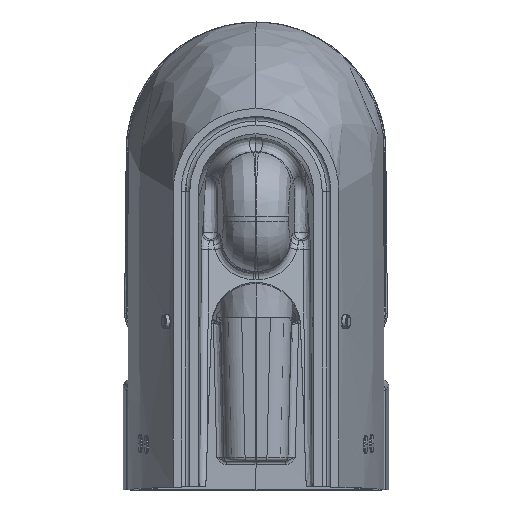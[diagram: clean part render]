
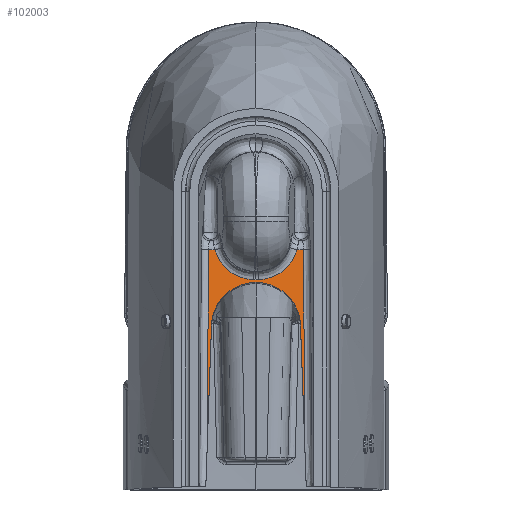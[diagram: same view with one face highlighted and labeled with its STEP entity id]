
A CAD part, front view. The second image highlights one B-rep face of the part: STEP entity #102003.
In plain terms, the highlighted planar face has unit normal (0, -0.99, 0.144).
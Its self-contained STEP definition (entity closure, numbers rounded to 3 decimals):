
#3191 = EDGE_CURVE ( 'NONE', #159153, #125007, #29965, .T. ) ;
#3699 = VERTEX_POINT ( 'NONE', #95649 ) ;
#3865 = EDGE_CURVE ( 'NONE', #173980, #159153, #167986, .T. ) ;
#4461 = CARTESIAN_POINT ( 'NONE',  ( -67.242, -357.748, -273.544 ) ) ;
#6646 = CARTESIAN_POINT ( 'NONE',  ( -29.269, -337.796, -136.566 ) ) ;
#6988 = CARTESIAN_POINT ( 'NONE',  ( -67.897, -370.24, -359.303 ) ) ;
#9802 = CARTESIAN_POINT ( 'NONE',  ( 65.881, -331.773, -95.216 ) ) ;
#10381 = CARTESIAN_POINT ( 'NONE',  ( 61.899, -346.988, -199.672 ) ) ;
#10403 = CARTESIAN_POINT ( 'NONE',  ( -50.15, -335.458, -120.512 ) ) ;
#10595 = CARTESIAN_POINT ( 'NONE',  ( -61.899, -346.988, -199.672 ) ) ;
#11121 = ORIENTED_EDGE ( 'NONE', *, *, #136040, .T. ) ;
#13232 = CARTESIAN_POINT ( 'NONE',  ( -56.653, -331.773, -95.216 ) ) ;
#23576 = CARTESIAN_POINT ( 'NONE',  ( -67.998, -372.161, -372.497 ) ) ;
#27998 = ORIENTED_EDGE ( 'NONE', *, *, #33759, .T. ) ;
#28803 = CARTESIAN_POINT ( 'NONE',  ( -65.881, -331.773, -95.216 ) ) ;
#29494 = EDGE_LOOP ( 'NONE', ( #169865, #138282, #112971, #43611, #36447, #76206, #95005, #27998, #51576, #11121, #213073, #159813 ) ) ;
#29780 = EDGE_CURVE ( 'NONE', #211464, #3699, #119009, .T. ) ;
#29965 =( BOUNDED_CURVE ( )  B_SPLINE_CURVE ( 3, ( #54691, #34328, #133637, #173063 ),
 .UNSPECIFIED., .F., .F. ) 
 B_SPLINE_CURVE_WITH_KNOTS ( ( 4, 4 ),
 ( 0.828, 2.155 ),
 .UNSPECIFIED. ) 
 CURVE ( )  GEOMETRIC_REPRESENTATION_ITEM ( )  RATIONAL_B_SPLINE_CURVE ( ( 1., 0.859, 0.859, 1. ) ) 
 REPRESENTATION_ITEM ( '' )  );
#30417 = CARTESIAN_POINT ( 'NONE',  ( -2.87, -337.796, -136.566 ) ) ;
#32180 = DIRECTION ( 'NONE',  ( 0., -0.99, 0.144 ) ) ;
#33759 = EDGE_CURVE ( 'NONE', #44893, #56756, #76272, .T. ) ;
#34276 = CARTESIAN_POINT ( 'NONE',  ( -500000., -331.773, -95.216 ) ) ;
#34328 = CARTESIAN_POINT ( 'NONE',  ( 50.15, -335.458, -120.512 ) ) ;
#36447 = ORIENTED_EDGE ( 'NONE', *, *, #191064, .F. ) ;
#42883 = LINE ( 'NONE', #236368, #208769 ) ;
#43196 = CIRCLE ( 'NONE', #83711, 61.937 ) ;
#43611 = ORIENTED_EDGE ( 'NONE', *, *, #212289, .F. ) ;
#44893 = VERTEX_POINT ( 'NONE', #10595 ) ;
#48004 = CARTESIAN_POINT ( 'NONE',  ( 66.335, -340.432, -154.659 ) ) ;
#49241 = CARTESIAN_POINT ( 'NONE',  ( 67.242, -357.748, -273.544 ) ) ;
#50492 = VERTEX_POINT ( 'NONE', #126647 ) ;
#50519 = CARTESIAN_POINT ( 'NONE',  ( 67.897, -370.24, -359.303 ) ) ;
#51297 = FACE_OUTER_BOUND ( 'NONE', #29494, .T. ) ;
#51576 = ORIENTED_EDGE ( 'NONE', *, *, #144016, .F. ) ;
#51732 = DIRECTION ( 'NONE',  ( 0., -0.144, -0.99 ) ) ;
#52194 = CARTESIAN_POINT ( 'NONE',  ( -666.7, -2843.331, -17338.062 ) ) ;
#54691 = CARTESIAN_POINT ( 'NONE',  ( 56.653, -331.773, -95.216 ) ) ;
#56756 = VERTEX_POINT ( 'NONE', #62336 ) ;
#59346 = DIRECTION ( 'NONE',  ( -1., 0., 0. ) ) ;
#60375 = EDGE_CURVE ( 'NONE', #50492, #137687, #228089, .T. ) ;
#62336 = CARTESIAN_POINT ( 'NONE',  ( 0., -338.372, -140.522 ) ) ;
#63045 = CARTESIAN_POINT ( 'NONE',  ( -66.335, -340.432, -154.659 ) ) ;
#65839 = CARTESIAN_POINT ( 'NONE',  ( 67.998, -372.161, -372.497 ) ) ;
#71401 = LINE ( 'NONE', #187246, #168404 ) ;
#72553 = B_SPLINE_CURVE_WITH_KNOTS ( 'NONE', 3,
 ( #65839, #222437, #50519, #123195, #106565, #200827, #49241, #83713, #48004, #125711 ),
 .UNSPECIFIED., .F., .F.,
 ( 4, 3, 3, 4 ),
 ( 0., 0.02, 0.1, 0.28 ),
 .UNSPECIFIED. ) ;
#76206 = ORIENTED_EDGE ( 'NONE', *, *, #60375, .F. ) ;
#76272 = CIRCLE ( 'NONE', #129238, 61.937 ) ;
#83711 = AXIS2_PLACEMENT_3D ( 'NONE', #137795, #175939, #117424 ) ;
#83713 = CARTESIAN_POINT ( 'NONE',  ( 66.789, -349.09, -214.101 ) ) ;
#88185 = EDGE_CURVE ( 'NONE', #125007, #3699, #42883, .T. ) ;
#95005 = ORIENTED_EDGE ( 'NONE', *, *, #107985, .F. ) ;
#95649 = CARTESIAN_POINT ( 'NONE',  ( 0., -337.796, -136.566 ) ) ;
#96083 = VERTEX_POINT ( 'NONE', #117896 ) ;
#98091 = VERTEX_POINT ( 'NONE', #13232 ) ;
#101227 = CARTESIAN_POINT ( 'NONE',  ( -67.847, -369.279, -352.706 ) ) ;
#102003 = ADVANCED_FACE ( 'NONE', ( #51297 ), #129014, .T. ) ;
#104991 = CARTESIAN_POINT ( 'NONE',  ( -67.645, -365.435, -326.319 ) ) ;
#105897 = CARTESIAN_POINT ( 'NONE',  ( -56.653, -331.773, -95.216 ) ) ;
#106565 = CARTESIAN_POINT ( 'NONE',  ( 67.645, -365.435, -326.319 ) ) ;
#107985 = EDGE_CURVE ( 'NONE', #44893, #50492, #187167, .T. ) ;
#111129 = VECTOR ( 'NONE', #225387, 1000. ) ;
#112971 = ORIENTED_EDGE ( 'NONE', *, *, #29780, .F. ) ;
#117424 = DIRECTION ( 'NONE',  ( 0., -0.144, -0.99 ) ) ;
#117896 = CARTESIAN_POINT ( 'NONE',  ( 67.998, -372.161, -372.497 ) ) ;
#118059 = EDGE_CURVE ( 'NONE', #96083, #173980, #72553, .T. ) ;
#119009 = LINE ( 'NONE', #121530, #121221 ) ;
#121221 = VECTOR ( 'NONE', #155941, 1000. ) ;
#121530 = CARTESIAN_POINT ( 'NONE',  ( 0., -337.796, -136.566 ) ) ;
#123195 = CARTESIAN_POINT ( 'NONE',  ( 67.847, -369.279, -352.706 ) ) ;
#123732 = DIRECTION ( 'NONE',  ( 0.035, -0.144, -0.989 ) ) ;
#125007 = VERTEX_POINT ( 'NONE', #237690 ) ;
#125711 = CARTESIAN_POINT ( 'NONE',  ( 65.881, -331.773, -95.216 ) ) ;
#126647 = CARTESIAN_POINT ( 'NONE',  ( -67.998, -372.161, -372.497 ) ) ;
#129014 = PLANE ( 'NONE',  #212159 ) ;
#129238 = AXIS2_PLACEMENT_3D ( 'NONE', #151006, #226175, #51732 ) ;
#132114 = DIRECTION ( 'NONE',  ( 1., 0., 0. ) ) ;
#133637 = CARTESIAN_POINT ( 'NONE',  ( 29.269, -337.796, -136.566 ) ) ;
#136040 = EDGE_CURVE ( 'NONE', #185935, #96083, #71401, .T. ) ;
#137687 = VERTEX_POINT ( 'NONE', #28803 ) ;
#137795 = CARTESIAN_POINT ( 'NONE',  ( 0., -347.3, -201.811 ) ) ;
#138282 = ORIENTED_EDGE ( 'NONE', *, *, #88185, .T. ) ;
#144016 = EDGE_CURVE ( 'NONE', #185935, #56756, #43196, .T. ) ;
#151006 = CARTESIAN_POINT ( 'NONE',  ( 0., -347.3, -201.811 ) ) ;
#155941 = DIRECTION ( 'NONE',  ( 1., 0., 0. ) ) ;
#156933 = CARTESIAN_POINT ( 'NONE',  ( 56.653, -331.773, -95.216 ) ) ;
#159153 = VERTEX_POINT ( 'NONE', #156933 ) ;
#159813 = ORIENTED_EDGE ( 'NONE', *, *, #3865, .T. ) ;
#161255 = DIRECTION ( 'NONE',  ( -1., 0., 0. ) ) ;
#167986 = LINE ( 'NONE', #34276, #181363 ) ;
#168404 = VECTOR ( 'NONE', #123732, 1000. ) ;
#169865 = ORIENTED_EDGE ( 'NONE', *, *, #3191, .T. ) ;
#173063 = CARTESIAN_POINT ( 'NONE',  ( 2.87, -337.796, -136.566 ) ) ;
#173980 = VERTEX_POINT ( 'NONE', #9802 ) ;
#175939 = DIRECTION ( 'NONE',  ( 0., -0.99, 0.144 ) ) ;
#178873 = CARTESIAN_POINT ( 'NONE',  ( -67.444, -361.592, -299.932 ) ) ;
#181363 = VECTOR ( 'NONE', #59346, 1000. ) ;
#185935 = VERTEX_POINT ( 'NONE', #10381 ) ;
#187167 = LINE ( 'NONE', #52194, #111129 ) ;
#187246 = CARTESIAN_POINT ( 'NONE',  ( 666.7, -2843.331, -17338.062 ) ) ;
#187496 = DIRECTION ( 'NONE',  ( -1., 0., 0. ) ) ;
#191064 = EDGE_CURVE ( 'NONE', #137687, #98091, #242924, .T. ) ;
#200827 = CARTESIAN_POINT ( 'NONE',  ( 67.444, -361.592, -299.932 ) ) ;
#201757 = CARTESIAN_POINT ( 'NONE',  ( -65.881, -331.773, -95.216 ) ) ;
#205994 = CARTESIAN_POINT ( 'NONE',  ( 500000., -331.777, -95.218 ) ) ;
#206618 = CARTESIAN_POINT ( 'NONE',  ( -500000., -330., -83.042 ) ) ;
#208769 = VECTOR ( 'NONE', #161255, 1000. ) ;
#211464 = VERTEX_POINT ( 'NONE', #30417 ) ;
#212159 = AXIS2_PLACEMENT_3D ( 'NONE', #206618, #32180, #187496 ) ;
#212289 = EDGE_CURVE ( 'NONE', #98091, #211464, #232953, .T. ) ;
#213073 = ORIENTED_EDGE ( 'NONE', *, *, #118059, .T. ) ;
#218037 = CARTESIAN_POINT ( 'NONE',  ( -2.87, -337.796, -136.566 ) ) ;
#222437 = CARTESIAN_POINT ( 'NONE',  ( 67.947, -371.201, -365.9 ) ) ;
#225387 = DIRECTION ( 'NONE',  ( -0.035, -0.144, -0.989 ) ) ;
#226175 = DIRECTION ( 'NONE',  ( 0., 0.99, -0.144 ) ) ;
#228089 = B_SPLINE_CURVE_WITH_KNOTS ( 'NONE', 3,
 ( #23576, #239936, #6988, #101227, #104991, #178873, #4461, #237459, #63045, #201757 ),
 .UNSPECIFIED., .F., .F.,
 ( 4, 3, 3, 4 ),
 ( 0., 0.02, 0.1, 0.28 ),
 .UNSPECIFIED. ) ;
#232953 =( BOUNDED_CURVE ( )  B_SPLINE_CURVE ( 3, ( #105897, #10403, #6646, #218037 ),
 .UNSPECIFIED., .F., .F. ) 
 B_SPLINE_CURVE_WITH_KNOTS ( ( 4, 4 ),
 ( 0.828, 2.155 ),
 .UNSPECIFIED. ) 
 CURVE ( )  GEOMETRIC_REPRESENTATION_ITEM ( )  RATIONAL_B_SPLINE_CURVE ( ( 1., 0.859, 0.859, 1. ) ) 
 REPRESENTATION_ITEM ( '' )  );
#236368 = CARTESIAN_POINT ( 'NONE',  ( 0., -337.796, -136.566 ) ) ;
#237459 = CARTESIAN_POINT ( 'NONE',  ( -66.789, -349.09, -214.101 ) ) ;
#237690 = CARTESIAN_POINT ( 'NONE',  ( 2.87, -337.796, -136.566 ) ) ;
#239936 = CARTESIAN_POINT ( 'NONE',  ( -67.947, -371.201, -365.9 ) ) ;
#242924 = LINE ( 'NONE', #205994, #249205 ) ;
#249205 = VECTOR ( 'NONE', #132114, 1000. ) ;
